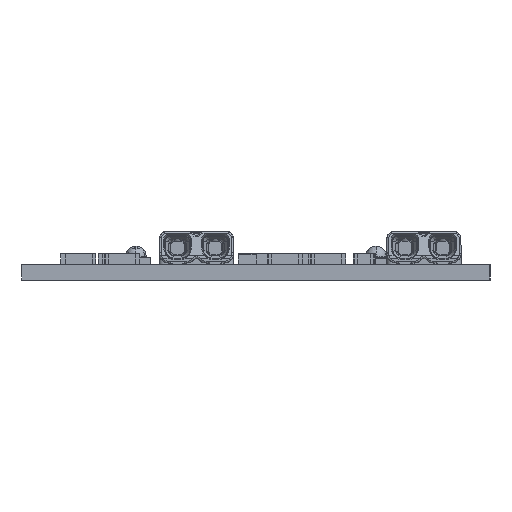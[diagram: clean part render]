
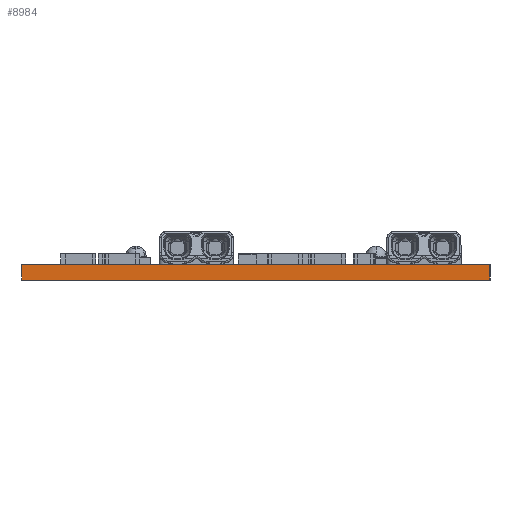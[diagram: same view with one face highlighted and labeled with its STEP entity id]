
A CAD part, left-side view. The second image highlights one B-rep face of the part: STEP entity #8984.
In plain terms, the highlighted planar face has unit normal (-1, 0, 0).
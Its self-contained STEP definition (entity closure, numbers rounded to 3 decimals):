
#325=DIRECTION('',(0.,-1.,0.));
#326=VECTOR('',#325,49.5);
#327=CARTESIAN_POINT('',(5.,54.5,0.));
#328=LINE('',#327,#326);
#2521=DIRECTION('',(0.,0.,1.));
#2522=VECTOR('',#2521,1.65);
#2523=CARTESIAN_POINT('',(5.,5.,-1.65));
#2524=LINE('',#2523,#2522);
#2528=DIRECTION('',(0.,0.,-1.));
#2529=VECTOR('',#2528,1.65);
#2530=CARTESIAN_POINT('',(5.,54.5,0.));
#2531=LINE('',#2530,#2529);
#2549=DIRECTION('',(0.,1.,0.));
#2550=VECTOR('',#2549,49.5);
#2551=CARTESIAN_POINT('',(5.,5.,-1.65));
#2552=LINE('',#2551,#2550);
#7027=CARTESIAN_POINT('',(5.,5.,-1.65));
#7028=CARTESIAN_POINT('',(5.,54.5,-1.65));
#7029=VERTEX_POINT('',#7027);
#7030=VERTEX_POINT('',#7028);
#7039=CARTESIAN_POINT('',(5.,5.,0.));
#7040=VERTEX_POINT('',#7039);
#7103=CARTESIAN_POINT('',(5.,54.5,0.));
#7104=VERTEX_POINT('',#7103);
#8971=CARTESIAN_POINT('',(5.,54.5,0.));
#8972=DIRECTION('',(-1.,0.,0.));
#8973=DIRECTION('',(0.,0.,1.));
#8974=AXIS2_PLACEMENT_3D('',#8971,#8972,#8973);
#8975=PLANE('',#8974);
#8977=ORIENTED_EDGE('',*,*,#8976,.F.);
#8979=ORIENTED_EDGE('',*,*,#8978,.T.);
#8980=ORIENTED_EDGE('',*,*,#8955,.F.);
#8981=ORIENTED_EDGE('',*,*,#8231,.T.);
#8982=EDGE_LOOP('',(#8977,#8979,#8980,#8981));
#8983=FACE_OUTER_BOUND('',#8982,.F.);
#8231=EDGE_CURVE('',#7104,#7040,#328,.T.);
#8955=EDGE_CURVE('',#7104,#7030,#2531,.T.);
#8976=EDGE_CURVE('',#7029,#7040,#2524,.T.);
#8978=EDGE_CURVE('',#7029,#7030,#2552,.T.);
#8984=ADVANCED_FACE('',(#8983),#8975,.T.);
